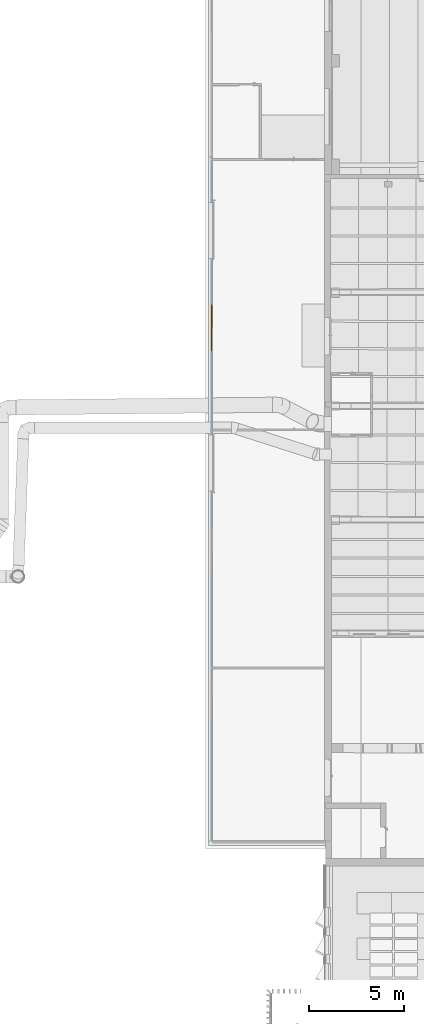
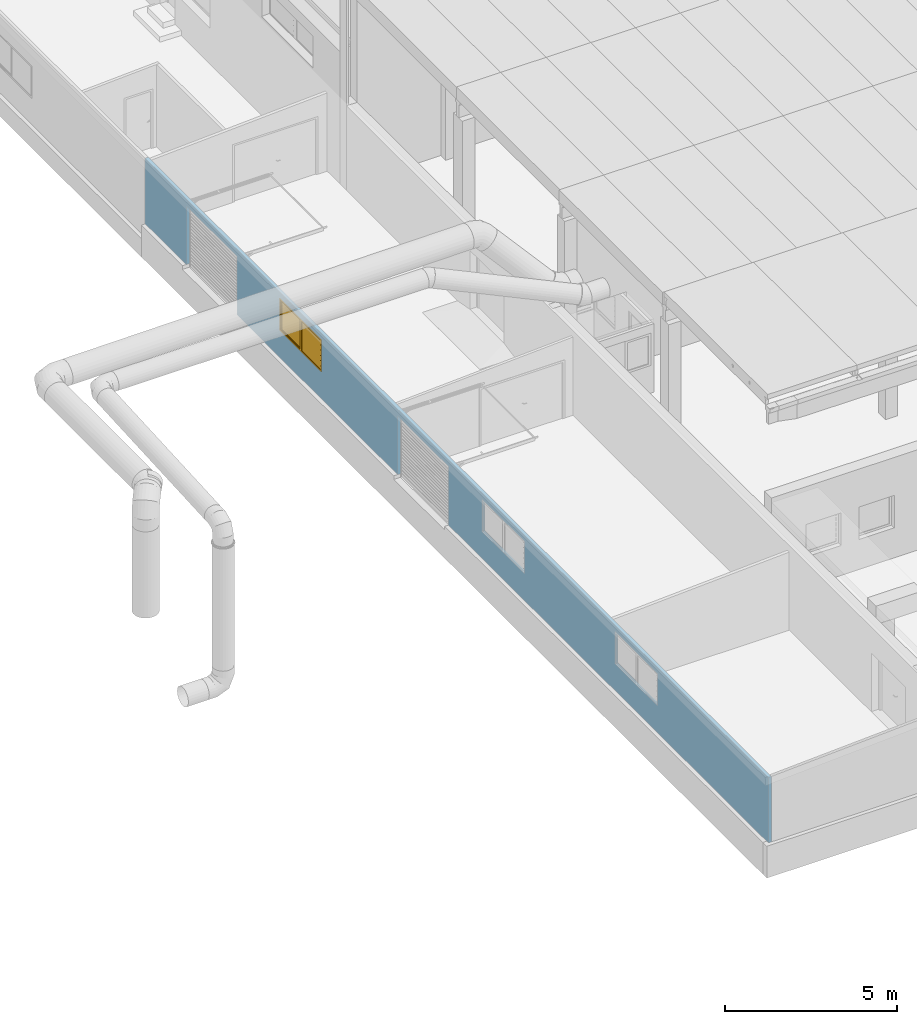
# One storey, part 88 of 301: 1 window, 5 openings, plus 1 element that does not belong to this part.
"""IFC2X3 building model written with IfcOpenShell, lengths in millimetres."""

from ifc_helpers import new_model, entity, si_unit, converted_unit, derived_unit, money_unit, direction, frame, origin_with_axes, place, context, subcontext, project, spatial, open_shell, faceted_brep, surface_model, material, type_object, element, fill, save


model = new_model("IFC2X3")

# Units and contexts
model_context = context("Model", 3, precision=0.01, world=origin_with_axes(), true_north=direction((0.0, 1.0)))
body_context = subcontext(model_context, "Body", "Model", "MODEL_VIEW")
ifc_project = project(units=[si_unit("LENGTHUNIT", "METRE", prefix="MILLI"), si_unit("AREAUNIT", "SQUARE_METRE"), si_unit("VOLUMEUNIT", "CUBIC_METRE"), converted_unit("PLANEANGLEUNIT", "DEGREE", entity("IfcPlaneAngleMeasure", 0.0174532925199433), si_unit("PLANEANGLEUNIT", "RADIAN"), dimensions=[0, 0, 0, 0, 0, 0, 0]), money_unit("EUR"), converted_unit("TIMEUNIT", "Year", entity("IfcTimeMeasure", 31557600.0), si_unit("TIMEUNIT", "SECOND"), dimensions=[0, 0, 1, 0, 0, 0, 0]), si_unit("MASSUNIT", "GRAM", prefix="KILO"), si_unit("THERMODYNAMICTEMPERATUREUNIT", "DEGREE_CELSIUS"), si_unit("LUMINOUSINTENSITYUNIT", "LUMEN"), si_unit("ENERGYUNIT", "JOULE", prefix="MEGA"), derived_unit("THERMALCONDUCTANCEUNIT", [(si_unit("POWERUNIT", "WATT"), 1), (si_unit("LENGTHUNIT", "METRE"), -1), (si_unit("THERMODYNAMICTEMPERATUREUNIT", "KELVIN"), -1)]), derived_unit("SPECIFICHEATCAPACITYUNIT", [(si_unit("ENERGYUNIT", "JOULE"), 1), (si_unit("MASSUNIT", "GRAM", prefix="KILO"), -1), (si_unit("THERMODYNAMICTEMPERATUREUNIT", "KELVIN"), -1)]), derived_unit("MASSDENSITYUNIT", [(si_unit("MASSUNIT", "GRAM", prefix="KILO"), 1), (si_unit("VOLUMEUNIT", "CUBIC_METRE"), -1)])], contexts=[model_context])

# Site, building, storey
site_placement = place(None, frame((0.0, 0.0, 8650.0), z_axis=(0.0, 0.0, 1.0), x_axis=(1.0, 0.0, 0.0)))
site = spatial("IfcSite", under=ifc_project, at=site_placement, Name="43301:001:0844", CompositionType="ELEMENT")
building_placement = place(site_placement, origin_with_axes())
building = spatial("IfcBuilding", under=site, at=building_placement, Name="Kuressaare Ametikooli tuulikute mehaanikute õppekorpus", CompositionType="ELEMENT")
storey_placement = place(building_placement, origin_with_axes())
storey = spatial("IfcBuildingStorey", under=building, at=storey_placement, Name="1.korrus", CompositionType="ELEMENT", Elevation=0.0)

# Wall, openings, window
ifc_material = material(Name="GENEERILINE - KONSTRUKTRIOON")
wall_type = type_object("IfcWallType", Name="GENEERILINE - KONSTRUKTRIOON 100", PredefinedType="NOTDEFINED")
wall_placement = place(storey_placement, frame((81891.83878898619, 63236.26327514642, 130.0), z_axis=(0.0, 0.0, 1.0), x_axis=(0.0, -1.0, 0.0)))
wall = element("IfcWall", 1, at=wall_placement, inside=storey, type_object=wall_type, material=ifc_material, Name="VS-XX", context=body_context, shape_type="Brep", body=[
    faceted_brep([(0.0, 0.0, 2324.239970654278), (0.0, 99.99999999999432, 2329.655717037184), (0.0, 99.99999999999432, 0.0), (0.0, 0.0, 0.0), (36237.35618591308, 99.99999999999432, 2320.415741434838), (36237.35618591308, 0.0, 2314.99999505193), (36237.35618591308, 99.99999999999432, 0.0), (17639.43948142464, 99.99999999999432, 0.0), (17639.43948142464, 99.99999999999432, 2080.0), (14679.43948142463, 99.99999999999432, 2080.0), (14679.43948142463, 99.99999999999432, 0.0), (5347.920379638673, 99.99999999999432, 0.0), (5347.920379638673, 99.99999999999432, 2080.0), (2387.920379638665, 99.99999999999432, 2080.0), (2387.920379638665, 99.99999999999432, 0.0), (19573.59649658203, 99.99999999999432, 950.0000000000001), (22053.59649658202, 99.99999999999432, 950.0000000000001), (22053.59649658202, 99.99999999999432, 2100.0), (19573.59649658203, 99.99999999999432, 2100.0), (7797.758178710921, 99.99999999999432, 2100.0), (7797.758178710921, 99.99999999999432, 950.0000000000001), (10247.75817871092, 99.99999999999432, 950.0000000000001), (10247.75817871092, 99.99999999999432, 2100.0), (29801.21437949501, 99.99999999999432, 2100.0), (27321.21437949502, 99.99999999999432, 2100.0), (27321.21437949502, 99.99999999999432, 950.0000000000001), (29801.21437949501, 99.99999999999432, 950.0000000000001), (2387.920379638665, 0.0, 0.0), (2387.920379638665, 0.0, 2080.0), (5347.920379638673, 0.0, 2080.0), (5347.920379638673, 0.0, 0.0), (14679.43948142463, 0.0, 0.0), (14679.43948142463, 0.0, 2080.0), (17639.43948142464, 0.0, 2080.0), (17639.43948142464, 0.0, 0.0), (36237.35618591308, 0.0, 0.0), (22053.59649658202, 0.0, 2100.0), (22053.59649658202, 0.0, 950.0000000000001), (19573.59649658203, 0.0, 950.0000000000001), (19573.59649658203, 0.0, 2100.0), (7797.758178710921, 0.0, 2100.0), (10247.75817871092, 0.0, 2100.0), (10247.75817871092, 0.0, 950.0000000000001), (7797.758178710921, 0.0, 950.0000000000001), (27321.21437949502, 0.0, 950.0000000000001), (27321.21437949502, 0.0, 2100.0), (29801.21437949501, 0.0, 2100.0), (29801.21437949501, 0.0, 950.0000000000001)], [[[0, 1, 2, 3]], [[4, 1, 0, 5]], [[1, 4, 6, 7, 8, 9, 10, 11, 12, 13, 14, 2], [15, 16, 17, 18], [19, 20, 21, 22], [23, 24, 25, 26]], [[14, 27, 3, 2]], [[5, 0, 3, 27, 28, 29, 30, 31, 32, 33, 34, 35], [36, 37, 38, 39], [40, 41, 42, 43], [44, 45, 46, 47]], [[4, 5, 35, 6]], [[35, 34, 7, 6]], [[33, 8, 7, 34]], [[32, 9, 8, 33]], [[31, 10, 9, 32]], [[11, 10, 31, 30]], [[12, 11, 30, 29]], [[13, 12, 29, 28]], [[14, 13, 28, 27]], [[37, 16, 15, 38]], [[36, 17, 16, 37]], [[39, 18, 17, 36]], [[38, 15, 18, 39]], [[40, 43, 20, 19]], [[43, 42, 21, 20]], [[42, 41, 22, 21]], [[41, 40, 19, 22]], [[23, 46, 45, 24]], [[24, 45, 44, 25]], [[25, 44, 47, 26]], [[26, 47, 46, 23]]]),
])
opening_1_placement = place(wall_placement, frame((20813.59649658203, 0.0, 949.9999999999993), z_axis=(0.0, 0.0, 1.0), x_axis=(1.0, 0.0, 0.0)))
element("IfcOpeningElement", 2, at=opening_1_placement, cuts=wall, Name="VA-XX", context=body_context, shape_type="Brep", body=[
    faceted_brep([(1239.999999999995, 100.9999999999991, 1150.0), (1239.999999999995, 100.9999999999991, 0.0), (-1239.999999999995, 100.9999999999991, 0.0), (-1239.999999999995, 100.9999999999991, 1150.0), (1239.999999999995, -1.000000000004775, 1150.0), (1239.999999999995, -1.000000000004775, 0.0), (-1239.999999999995, -1.000000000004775, 0.0), (-1239.999999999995, -1.000000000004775, 1150.0)], [[[0, 1, 2, 3]], [[4, 5, 1, 0]], [[5, 6, 2, 1]], [[6, 7, 3, 2]], [[7, 4, 0, 3]], [[6, 5, 4, 7]]]),
])
opening_2_placement = place(wall_placement, frame((9022.758178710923, 0.0, 949.9999999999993), z_axis=(0.0, 0.0, 1.0), x_axis=(1.0, 0.0, 0.0)))
opening_2 = element("IfcOpeningElement", 3, at=opening_2_placement, cuts=wall, Name="VA-XX", context=body_context, shape_type="Brep", body=[
    faceted_brep([(1225.000000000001, 100.9999999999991, 1150.0), (1225.000000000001, 100.9999999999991, 0.0), (-1225.000000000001, 100.9999999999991, 0.0), (-1225.000000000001, 100.9999999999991, 1150.0), (1225.000000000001, -1.000000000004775, 1150.0), (1225.000000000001, -1.000000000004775, 0.0), (-1225.000000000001, -1.000000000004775, 0.0), (-1225.000000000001, -1.000000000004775, 1150.0)], [[[0, 1, 2, 3]], [[4, 5, 1, 0]], [[5, 6, 2, 1]], [[6, 7, 3, 2]], [[7, 4, 0, 3]], [[6, 5, 4, 7]]]),
])
opening_3_placement = place(wall_placement, frame((28561.21437949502, 0.0, 949.9999999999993), z_axis=(0.0, 0.0, 1.0), x_axis=(1.0, 0.0, 0.0)))
element("IfcOpeningElement", 4, at=opening_3_placement, cuts=wall, Name="VA-XX", context=body_context, shape_type="Brep", body=[
    faceted_brep([(1239.999999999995, 100.9999999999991, 1150.0), (1239.999999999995, 100.9999999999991, 0.0), (-1239.999999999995, 100.9999999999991, 0.0), (-1239.999999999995, 100.9999999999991, 1150.0), (1239.999999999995, -1.000000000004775, 1150.0), (1239.999999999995, -1.000000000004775, 0.0), (-1239.999999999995, -1.000000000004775, 0.0), (-1239.999999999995, -1.000000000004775, 1150.0)], [[[0, 1, 2, 3]], [[4, 5, 1, 0]], [[5, 6, 2, 1]], [[6, 7, 3, 2]], [[7, 4, 0, 3]], [[6, 5, 4, 7]]]),
])
opening_4_placement = place(wall_placement, frame((3867.920379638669, 0.0, -130.0000000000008), z_axis=(0.0, 0.0, 1.0), x_axis=(1.0, 0.0, 0.0)))
element("IfcOpeningElement", 5, at=opening_4_placement, cuts=wall, context=body_context, shape_type="Brep", body=[
    faceted_brep([(1480.000000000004, 100.9999999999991, 2210.0), (1480.000000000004, 100.9999999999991, 0.0), (-1480.000000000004, 100.9999999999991, 0.0), (-1480.000000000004, 100.9999999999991, 2210.0), (1480.000000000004, -1.000000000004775, 2210.0), (1480.000000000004, -1.000000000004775, 0.0), (-1480.000000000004, -1.000000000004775, 0.0), (-1480.000000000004, -1.000000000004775, 2210.0)], [[[0, 1, 2, 3]], [[4, 5, 1, 0]], [[5, 6, 2, 1]], [[6, 7, 3, 2]], [[7, 4, 0, 3]], [[6, 5, 4, 7]]]),
])
opening_5_placement = place(wall_placement, frame((16159.43948142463, 0.0, -130.0000000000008), z_axis=(0.0, 0.0, 1.0), x_axis=(1.0, 0.0, 0.0)))
element("IfcOpeningElement", 6, at=opening_5_placement, cuts=wall, context=body_context, shape_type="Brep", body=[
    faceted_brep([(1480.000000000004, 100.9999999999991, 2210.0), (1480.000000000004, 100.9999999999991, 0.0), (-1480.000000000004, 100.9999999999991, 0.0), (-1480.000000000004, 100.9999999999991, 2210.0), (1480.000000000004, -1.000000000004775, 2210.0), (1480.000000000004, -1.000000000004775, 0.0), (-1480.000000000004, -1.000000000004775, 0.0), (-1480.000000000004, -1.000000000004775, 2210.0)], [[[0, 1, 2, 3]], [[4, 5, 1, 0]], [[5, 6, 2, 1]], [[6, 7, 3, 2]], [[7, 4, 0, 3]], [[6, 5, 4, 7]]]),
])
window_style = type_object("IfcWindowStyle", Name="Double Window 27", ConstructionType="NOTDEFINED", OperationType="DOUBLE_PANEL_VERTICAL", ParameterTakesPrecedence=False, Sizeable=False)
window_placement = place(opening_2_placement, frame((-1225.000000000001, 0.0, 0.0), z_axis=(0.0, 0.0, 1.0), x_axis=(1.0, 0.0, 0.0)))
window = element("IfcWindow", 7, at=window_placement, inside=storey, type_object=window_style, Name="VA-XX", OverallHeight=1150.0, OverallWidth=2450.0, context=body_context, shape_type="SurfaceModel", body=[
    faceted_brep([(24.99999999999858, 49.99999999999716, 1100.0), (0.0, 49.99999999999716, 1100.0), (0.0, 0.0, 1100.0), (50.00000000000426, 0.0, 1100.0), (50.00000000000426, 24.99999999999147, 1100.0), (24.99999999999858, 24.99999999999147, 1100.0), (24.99999999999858, 49.99999999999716, 50.00000000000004), (0.0, 49.99999999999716, 50.00000000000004), (0.0, 0.0, 50.00000000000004), (50.00000000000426, 0.0, 50.00000000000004), (50.00000000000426, 24.99999999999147, 50.00000000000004), (24.99999999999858, 24.99999999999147, 50.00000000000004)], [[[0, 1, 2, 3, 4, 5]], [[6, 7, 1, 0]], [[1, 7, 8, 2]], [[2, 8, 9, 3]], [[4, 3, 9, 10]], [[10, 11, 5, 4]], [[5, 11, 6, 0]], [[11, 10, 9, 8, 7, 6]]]),
    faceted_brep([(1200.000000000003, 24.99999999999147, 1100.0), (1200.000000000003, 0.0, 1100.0), (1300.000000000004, 0.0, 1100.0), (1300.000000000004, 49.99999999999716, 1100.0), (1225.000000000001, 49.99999999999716, 1100.0), (1225.000000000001, 24.99999999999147, 1100.0), (1200.000000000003, 24.99999999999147, 50.00000000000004), (1200.000000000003, 0.0, 50.00000000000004), (1300.000000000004, 0.0, 50.00000000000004), (1300.000000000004, 49.99999999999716, 50.00000000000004), (1225.000000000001, 49.99999999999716, 50.00000000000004), (1225.000000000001, 24.99999999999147, 50.00000000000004)], [[[0, 1, 2, 3, 4, 5]], [[6, 7, 1, 0]], [[8, 2, 1, 7]], [[9, 3, 2, 8]], [[4, 3, 9, 10]], [[10, 11, 5, 4]], [[5, 11, 6, 0]], [[11, 10, 9, 8, 7, 6]]]),
    faceted_brep([(1200.000000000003, 24.99999999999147, 50.00000000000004), (1200.000000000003, 0.0, 50.00000000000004), (1300.000000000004, 0.0, 50.00000000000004), (1300.000000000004, 49.99999999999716, 50.00000000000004), (1225.000000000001, 49.99999999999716, 50.00000000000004), (1225.000000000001, 24.99999999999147, 50.00000000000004), (50.00000000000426, 24.99999999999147, 50.00000000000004), (50.00000000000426, 0.0, 50.00000000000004), (0.0, 0.0, 50.00000000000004), (0.0, 0.0, 0.0), (2450.000000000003, 0.0, 0.0), (2450.000000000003, 0.0, 50.00000000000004), (2399.999999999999, 0.0, 50.00000000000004), (2399.999999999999, 49.99999999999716, 50.00000000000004), (24.99999999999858, 49.99999999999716, 25.00000000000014), (1225.000000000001, 49.99999999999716, 25.00000000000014), (2450.000000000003, 49.99999999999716, 50.00000000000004), (2450.000000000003, 49.99999999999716, 0.0), (0.0, 49.99999999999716, 0.0), (0.0, 49.99999999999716, 50.00000000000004), (24.99999999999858, 49.99999999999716, 50.00000000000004), (1225.000000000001, 24.99999999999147, 24.99999999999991), (24.99999999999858, 24.99999999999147, 24.99999999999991), (24.99999999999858, 24.99999999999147, 50.00000000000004)], [[[0, 1, 2, 3, 4, 5]], [[6, 7, 1, 0]], [[8, 9, 10, 11, 12, 2, 1, 7]], [[13, 3, 2, 12]], [[14, 15, 4, 3, 13, 16, 17, 18, 19, 20]], [[15, 21, 5, 4]], [[5, 21, 22, 23, 6, 0]], [[23, 20, 19, 8, 7, 6]], [[19, 18, 9, 8]], [[18, 17, 10, 9]], [[17, 16, 11, 10]], [[16, 13, 12, 11]], [[14, 22, 21, 15]], [[23, 22, 14, 20]]]),
    faceted_brep([(24.99999999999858, 49.99999999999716, 1100.0), (0.0, 49.99999999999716, 1100.0), (0.0, 49.99999999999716, 1150.0), (2450.000000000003, 49.99999999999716, 1150.0), (2450.000000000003, 49.99999999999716, 1100.0), (2399.999999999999, 49.99999999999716, 1100.0), (1300.000000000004, 49.99999999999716, 1100.0), (1225.000000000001, 49.99999999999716, 1100.0), (1225.000000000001, 49.99999999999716, 1125.0), (24.99999999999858, 49.99999999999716, 1125.0), (24.99999999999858, 24.99999999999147, 1100.0), (50.00000000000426, 24.99999999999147, 1100.0), (50.00000000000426, 0.0, 1100.0), (0.0, 0.0, 1100.0), (0.0, 0.0, 1150.0), (2450.000000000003, 0.0, 1150.0), (2450.000000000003, 0.0, 1100.0), (2399.999999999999, 0.0, 1100.0), (1300.000000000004, 0.0, 1100.0), (1225.000000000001, 24.99999999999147, 1100.0), (1200.000000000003, 0.0, 1100.0), (1200.000000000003, 24.99999999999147, 1100.0), (1225.000000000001, 24.99999999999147, 1125.0), (24.99999999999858, 24.99999999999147, 1125.0)], [[[0, 1, 2, 3, 4, 5, 6, 7, 8, 9]], [[10, 11, 12, 13, 1, 0]], [[2, 1, 13, 14]], [[3, 2, 14, 15]], [[4, 3, 15, 16]], [[5, 4, 16, 17]], [[6, 5, 17, 18]], [[19, 7, 6, 18, 20, 21]], [[7, 19, 22, 8]], [[8, 22, 23, 9]], [[9, 23, 10, 0]], [[21, 11, 10, 23, 22, 19]], [[21, 20, 12, 11]], [[18, 17, 16, 15, 14, 13, 12, 20]]]),
    faceted_brep([(2399.999999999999, 0.0, 50.00000000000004), (2399.999999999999, 49.99999999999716, 50.00000000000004), (2450.000000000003, 49.99999999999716, 50.00000000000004), (2450.000000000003, 0.0, 50.00000000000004), (2399.999999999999, 0.0, 1100.0), (2399.999999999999, 49.99999999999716, 1100.0), (2450.000000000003, 49.99999999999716, 1100.0), (2450.000000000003, 0.0, 1100.0)], [[[0, 1, 2, 3]], [[4, 5, 1, 0]], [[1, 5, 6, 2]], [[3, 2, 6, 7]], [[0, 3, 7, 4]], [[7, 6, 5, 4]]]),
    faceted_brep([(33.99999999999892, 75.00000000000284, 601.9999999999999), (35.33974596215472, 75.00000000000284, 607.0), (35.33974596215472, 87.0000000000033, 607.0), (33.99999999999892, 87.0000000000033, 601.9999999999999), (33.99999999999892, 75.00000000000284, 548.0), (35.33974596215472, 75.00000000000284, 542.9999999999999), (39.00000000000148, 75.00000000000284, 539.3397459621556), (44.00000000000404, 75.00000000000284, 537.9999999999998), (56.00000000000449, 75.00000000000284, 537.9999999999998), (60.99999999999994, 75.00000000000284, 539.3397459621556), (64.6602540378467, 75.00000000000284, 542.9999999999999), (66.0000000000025, 75.00000000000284, 548.0), (66.0000000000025, 75.00000000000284, 601.9999999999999), (64.6602540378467, 75.00000000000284, 607.0), (60.99999999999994, 75.00000000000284, 610.6602540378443), (56.00000000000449, 75.00000000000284, 612.0000000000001), (44.00000000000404, 75.00000000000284, 612.0000000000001), (39.00000000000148, 75.00000000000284, 610.6602540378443), (39.00000000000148, 87.0000000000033, 610.6602540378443), (44.00000000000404, 87.0000000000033, 612.0000000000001), (56.00000000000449, 87.0000000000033, 612.0000000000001), (60.99999999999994, 87.0000000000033, 610.6602540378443), (64.6602540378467, 87.0000000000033, 607.0), (66.0000000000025, 87.0000000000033, 601.9999999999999), (66.0000000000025, 87.0000000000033, 548.0), (64.6602540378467, 87.0000000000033, 542.9999999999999), (60.99999999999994, 87.0000000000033, 539.3397459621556), (56.00000000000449, 87.0000000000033, 537.9999999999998), (44.00000000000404, 87.0000000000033, 537.9999999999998), (39.00000000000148, 87.0000000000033, 539.3397459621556), (35.33974596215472, 87.0000000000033, 542.9999999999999), (33.99999999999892, 87.0000000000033, 548.0)], [[[0, 1, 2, 3]], [[0, 4, 5, 6, 7, 8, 9, 10, 11, 12, 13, 14, 15, 16, 17, 1]], [[1, 17, 18, 2]], [[3, 2, 18, 19, 20, 21, 22, 23, 24, 25, 26, 27, 28, 29, 30, 31]], [[4, 0, 3, 31]], [[5, 4, 31, 30]], [[6, 5, 30, 29]], [[7, 6, 29, 28]], [[8, 7, 28, 27]], [[9, 8, 27, 26]], [[10, 9, 26, 25]], [[11, 10, 25, 24]], [[12, 11, 24, 23]], [[13, 12, 23, 22]], [[14, 13, 22, 21]], [[15, 14, 21, 20]], [[16, 15, 20, 19]], [[17, 16, 19, 18]]]),
    faceted_brep([(50.00000000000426, 87.0000000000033, 588.4999999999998), (56.75000000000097, 87.0000000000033, 586.6913429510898), (56.75000000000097, 111.0000000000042, 586.6913429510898), (50.00000000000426, 111.0000000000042, 588.4999999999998), (43.25000000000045, 87.0000000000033, 586.6913429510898), (38.3086570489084, 87.0000000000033, 581.75), (36.50000000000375, 87.0000000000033, 575.0), (38.3086570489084, 87.0000000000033, 568.2499999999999), (43.25000000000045, 87.0000000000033, 563.30865704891), (50.00000000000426, 87.0000000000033, 561.5000000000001), (56.75000000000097, 87.0000000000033, 563.30865704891), (61.69134295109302, 87.0000000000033, 568.2499999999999), (63.50000000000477, 87.0000000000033, 575.0), (61.69134295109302, 87.0000000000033, 581.75), (61.69134295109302, 111.0000000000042, 581.75), (63.50000000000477, 111.0000000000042, 575.0), (61.69134295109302, 111.0000000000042, 568.2499999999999), (56.75000000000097, 111.0000000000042, 563.30865704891), (50.00000000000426, 111.0000000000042, 561.5000000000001), (43.25000000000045, 111.0000000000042, 563.30865704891), (38.3086570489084, 111.0000000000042, 568.2499999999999), (36.50000000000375, 111.0000000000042, 575.0), (38.3086570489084, 111.0000000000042, 581.75), (43.25000000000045, 111.0000000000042, 586.6913429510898)], [[[0, 1, 2, 3]], [[0, 4, 5, 6, 7, 8, 9, 10, 11, 12, 13, 1]], [[1, 13, 14, 2]], [[3, 2, 14, 15, 16, 17, 18, 19, 20, 21, 22, 23]], [[4, 0, 3, 23]], [[5, 4, 23, 22]], [[6, 5, 22, 21]], [[7, 6, 21, 20]], [[8, 7, 20, 19]], [[9, 8, 19, 18]], [[10, 9, 18, 17]], [[11, 10, 17, 16]], [[12, 11, 16, 15]], [[13, 12, 15, 14]]]),
    faceted_brep([(38.49999999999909, 111.0000000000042, 468.0), (50.00000000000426, 111.0000000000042, 464.9999999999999), (61.50000000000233, 111.0000000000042, 468.0), (63.50000000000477, 111.0000000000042, 471.0000000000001), (63.50000000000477, 111.0000000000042, 575.0), (61.69134295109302, 111.0000000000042, 581.75), (56.75000000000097, 111.0000000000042, 586.6913429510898), (50.00000000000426, 111.0000000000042, 588.4999999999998), (43.25000000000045, 111.0000000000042, 586.6913429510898), (38.3086570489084, 111.0000000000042, 581.75), (36.50000000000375, 111.0000000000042, 575.0), (36.50000000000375, 111.0000000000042, 471.0000000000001), (38.49999993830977, 118.9999999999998, 468.000000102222), (49.99999996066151, 118.9999999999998, 464.9999996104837), (61.49999998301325, 118.9999999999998, 468.000000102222), (63.5000003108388, 118.9999999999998, 470.9999996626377), (63.5000003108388, 118.9999999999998, 574.9999999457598), (61.69134299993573, 118.9999999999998, 581.7499996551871), (56.74999967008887, 118.9999999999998, 586.691342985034), (49.99999996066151, 118.9999999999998, 588.5000002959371), (43.25000025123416, 118.9999999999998, 586.691342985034), (38.3086569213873, 118.9999999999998, 581.7499996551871), (36.49999961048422, 118.9999999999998, 574.9999999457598), (36.49999961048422, 118.9999999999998, 470.9999996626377), (40.36253746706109, 121.9999995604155, 470.6145196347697), (49.99999996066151, 121.9999995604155, 468.1003985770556), (59.63746245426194, 121.9999995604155, 470.6145196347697), (60.50000075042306, 121.9999995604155, 471.9083266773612), (60.50000075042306, 121.9999995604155, 574.6050424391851), (59.00161703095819, 121.9999995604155, 580.197085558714), (55.19708557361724, 121.9999995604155, 584.0016170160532), (49.99999996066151, 121.9999995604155, 585.3941721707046), (44.80291434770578, 121.9999995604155, 584.0016170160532), (40.99838289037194, 121.9999995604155, 580.197085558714), (39.49999917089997, 121.9999995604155, 574.6050424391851), (39.49999917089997, 121.9999995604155, 471.9083266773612)], [[[0, 1, 2, 3, 4, 5, 6, 7, 8, 9, 10, 11]], [[1, 0, 12, 13]], [[2, 1, 13, 14]], [[3, 2, 14, 15]], [[4, 3, 15, 16]], [[5, 4, 16, 17]], [[6, 5, 17, 18]], [[7, 6, 18, 19]], [[8, 7, 19, 20]], [[9, 8, 20, 21]], [[10, 9, 21, 22]], [[11, 10, 22, 23]], [[0, 11, 23, 12]], [[13, 12, 24, 25]], [[14, 13, 25, 26]], [[15, 14, 26, 27]], [[16, 15, 27, 28]], [[17, 16, 28, 29]], [[18, 17, 29, 30]], [[19, 18, 30, 31]], [[20, 19, 31, 32]], [[21, 20, 32, 33]], [[22, 21, 33, 34]], [[23, 22, 34, 35]], [[12, 23, 35, 24]], [[26, 25, 24, 35, 34, 33, 32, 31, 30, 29, 28, 27]]]),
    faceted_brep([(75.00000000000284, 24.99999999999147, 1075.0), (75.00000000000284, 75.00000000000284, 1075.0), (24.99999999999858, 75.00000000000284, 1075.0), (24.99999999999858, 24.99999999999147, 1075.0), (75.00000000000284, 24.99999999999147, 74.99999999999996), (75.00000000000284, 75.00000000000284, 74.99999999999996), (24.99999999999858, 75.00000000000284, 74.99999999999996), (24.99999999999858, 24.99999999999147, 74.99999999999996)], [[[0, 1, 2, 3]], [[4, 5, 1, 0]], [[1, 5, 6, 2]], [[3, 2, 6, 7]], [[0, 3, 7, 4]], [[7, 6, 5, 4]]]),
    faceted_brep([(1175.000000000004, 24.99999999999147, 74.99999999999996), (1175.000000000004, 75.00000000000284, 74.99999999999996), (1225.000000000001, 75.00000000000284, 74.99999999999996), (1225.000000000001, 24.99999999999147, 74.99999999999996), (1175.000000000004, 24.99999999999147, 1075.0), (1175.000000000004, 75.00000000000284, 1075.0), (1225.000000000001, 75.00000000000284, 1075.0), (1225.000000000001, 24.99999999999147, 1075.0)], [[[0, 1, 2, 3]], [[4, 5, 1, 0]], [[1, 5, 6, 2]], [[3, 2, 6, 7]], [[0, 3, 7, 4]], [[7, 6, 5, 4]]]),
    faceted_brep([(1225.000000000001, 24.99999999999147, 24.99999999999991), (1225.000000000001, 75.00000000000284, 24.99999999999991), (1225.000000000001, 75.00000000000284, 74.99999999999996), (1225.000000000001, 24.99999999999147, 74.99999999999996), (24.99999999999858, 24.99999999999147, 24.99999999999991), (24.99999999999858, 75.00000000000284, 24.99999999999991), (24.99999999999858, 75.00000000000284, 74.99999999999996), (75.00000000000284, 75.00000000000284, 74.99999999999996), (1175.000000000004, 75.00000000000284, 74.99999999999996), (1175.000000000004, 24.99999999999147, 74.99999999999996), (75.00000000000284, 24.99999999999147, 74.99999999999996), (24.99999999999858, 24.99999999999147, 74.99999999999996)], [[[0, 1, 2, 3]], [[4, 5, 1, 0]], [[1, 5, 6, 7, 8, 2]], [[3, 2, 8, 9]], [[0, 3, 9, 10, 11, 4]], [[11, 6, 5, 4]], [[10, 7, 6, 11]], [[9, 8, 7, 10]]]),
    faceted_brep([(24.99999999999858, 24.99999999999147, 1125.0), (24.99999999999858, 75.00000000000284, 1125.0), (24.99999999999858, 75.00000000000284, 1075.0), (24.99999999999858, 24.99999999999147, 1075.0), (1225.000000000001, 24.99999999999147, 1125.0), (1225.000000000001, 75.00000000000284, 1125.0), (1225.000000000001, 75.00000000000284, 1075.0), (1175.000000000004, 75.00000000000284, 1075.0), (75.00000000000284, 75.00000000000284, 1075.0), (75.00000000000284, 24.99999999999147, 1075.0), (1175.000000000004, 24.99999999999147, 1075.0), (1225.000000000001, 24.99999999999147, 1075.0)], [[[0, 1, 2, 3]], [[4, 5, 1, 0]], [[1, 5, 6, 7, 8, 2]], [[3, 2, 8, 9]], [[0, 3, 9, 10, 11, 4]], [[11, 6, 5, 4]], [[10, 7, 6, 11]], [[9, 8, 7, 10]]]),
    surface_model("IfcShellBasedSurfaceModel", [(75.00000000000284, 39.99999999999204, 74.99999999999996), (1175.000000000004, 39.99999999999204, 74.99999999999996), (1175.000000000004, 39.99999999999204, 1075.0), (75.00000000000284, 39.99999999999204, 1075.0)], [open_shell([[[0, 1, 2, 3]]])]),
    surface_model("IfcShellBasedSurfaceModel", [(75.00000000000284, 60.00000000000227, 74.99999999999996), (75.00000000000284, 60.00000000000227, 1075.0), (1175.000000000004, 60.00000000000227, 1075.0), (1175.000000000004, 60.00000000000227, 74.99999999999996)], [open_shell([[[0, 1, 2, 3]]])]),
    surface_model("IfcShellBasedSurfaceModel", [(1300.000000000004, 15.00000000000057, 50.00000000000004), (2399.999999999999, 15.00000000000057, 50.00000000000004), (2399.999999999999, 15.00000000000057, 1100.0), (1300.000000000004, 15.00000000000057, 1100.0)], [open_shell([[[0, 1, 2, 3]]])]),
    surface_model("IfcShellBasedSurfaceModel", [(1300.000000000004, 34.99999999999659, 50.00000000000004), (1300.000000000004, 34.99999999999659, 1100.0), (2399.999999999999, 34.99999999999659, 1100.0), (2399.999999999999, 34.99999999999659, 50.00000000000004)], [open_shell([[[0, 1, 2, 3]]])]),
])
fill(opening_2, window)

save(model, "model.ifc")
